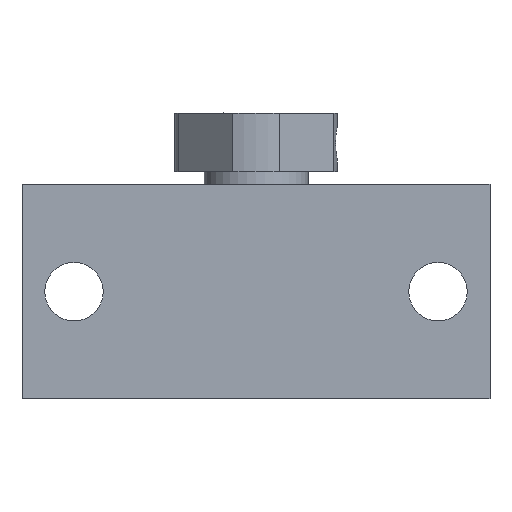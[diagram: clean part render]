
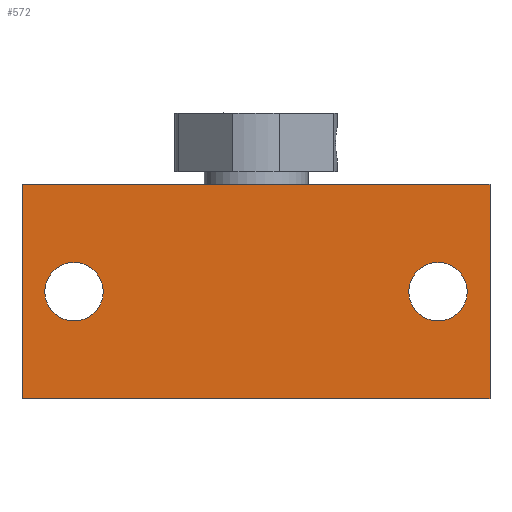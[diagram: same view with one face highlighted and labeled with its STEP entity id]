
A CAD part, front view. The second image highlights one B-rep face of the part: STEP entity #572.
In plain terms, the highlighted planar face has unit normal (0, -1, 0).
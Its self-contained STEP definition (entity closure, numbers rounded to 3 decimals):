
#70=LINE($,#994,#116);
#86=LINE($,#1030,#132);
#94=LINE($,#1066,#140);
#97=LINE($,#1073,#143);
#116=VECTOR($,#690,36.);
#132=VECTOR($,#716,36.);
#140=VECTOR($,#766,16.5);
#143=VECTOR($,#777,16.5);
#174=FACE_BOUND($,#228,.T.);
#175=FACE_BOUND($,#229,.T.);
#176=FACE_BOUND($,#230,.T.);
#228=EDGE_LOOP($,(#515));
#229=EDGE_LOOP($,(#516));
#230=EDGE_LOOP($,(#517,#518,#519,#520));
#245=CIRCLE($,#605,2.25);
#247=CIRCLE($,#608,2.25);
#281=VERTEX_POINT($,#991);
#282=VERTEX_POINT($,#993);
#296=VERTEX_POINT($,#1027);
#297=VERTEX_POINT($,#1029);
#299=VERTEX_POINT($,#1040);
#301=VERTEX_POINT($,#1045);
#341=EDGE_CURVE($,#281,#282,#70,.T.);
#359=EDGE_CURVE($,#297,#296,#86,.T.);
#365=EDGE_CURVE($,#299,#299,#245,.T.);
#367=EDGE_CURVE($,#301,#301,#247,.T.);
#373=EDGE_CURVE($,#297,#281,#94,.T.);
#376=EDGE_CURVE($,#296,#282,#97,.T.);
#515=ORIENTED_EDGE($,*,*,#365,.T.);
#516=ORIENTED_EDGE($,*,*,#367,.T.);
#517=ORIENTED_EDGE($,*,*,#359,.T.);
#518=ORIENTED_EDGE($,*,*,#376,.T.);
#519=ORIENTED_EDGE($,*,*,#341,.F.);
#520=ORIENTED_EDGE($,*,*,#373,.F.);
#540=PLANE($,#627);
#572=ADVANCED_FACE($,(#174,#175,#176),#540,.T.);
#605=AXIS2_PLACEMENT_3D($,#1041,#728,#729);
#608=AXIS2_PLACEMENT_3D($,#1046,#734,#735);
#627=AXIS2_PLACEMENT_3D($,#1074,#778,#779);
#690=DIRECTION($,(1.,0.,0.));
#716=DIRECTION($,(1.,0.,0.));
#728=DIRECTION('center_axis',(0.,1.,0.));
#729=DIRECTION('ref_axis',(1.,0.,0.));
#734=DIRECTION('center_axis',(0.,1.,0.));
#735=DIRECTION('ref_axis',(1.,0.,0.));
#766=DIRECTION($,(0.,0.,1.));
#777=DIRECTION($,(0.,0.,1.));
#778=DIRECTION('center_axis',(0.,-1.,0.));
#779=DIRECTION('ref_axis',(1.,0.,0.));
#991=CARTESIAN_POINT('',(0.,0.,16.5));
#993=CARTESIAN_POINT('',(36.,0.,16.5));
#994=CARTESIAN_POINT($,(0.,0.,16.5));
#1027=CARTESIAN_POINT('',(36.,0.,0.));
#1029=CARTESIAN_POINT('',(0.,0.,0.));
#1030=CARTESIAN_POINT($,(0.,0.,0.));
#1040=CARTESIAN_POINT('',(1.75,0.,8.25));
#1041=CARTESIAN_POINT('Origin',(4.,0.,8.25));
#1045=CARTESIAN_POINT('',(29.75,0.,8.25));
#1046=CARTESIAN_POINT('Origin',(32.,0.,8.25));
#1066=CARTESIAN_POINT($,(0.,0.,0.));
#1073=CARTESIAN_POINT($,(36.,0.,0.));
#1074=CARTESIAN_POINT('Origin',(0.,0.,0.));
